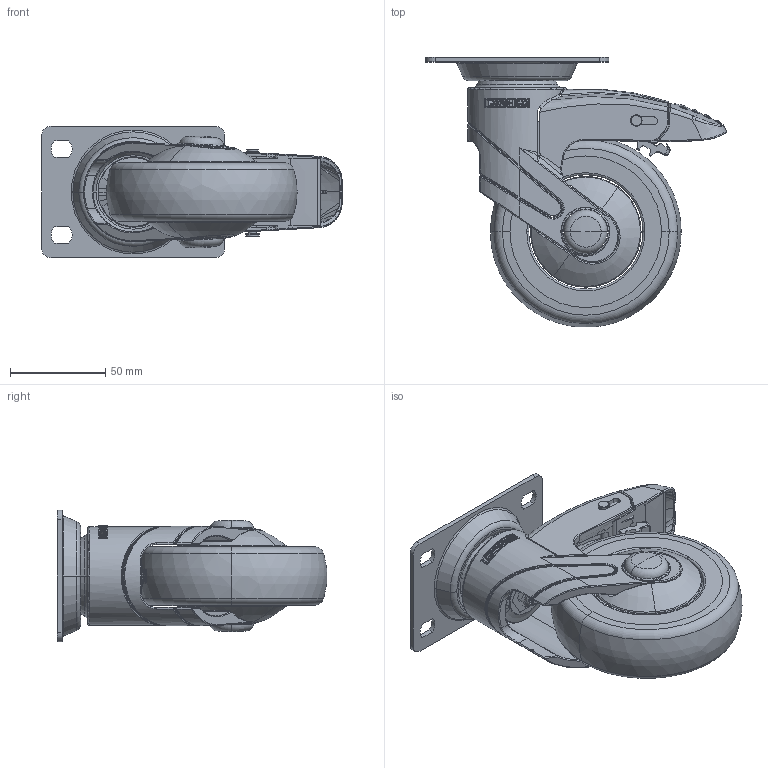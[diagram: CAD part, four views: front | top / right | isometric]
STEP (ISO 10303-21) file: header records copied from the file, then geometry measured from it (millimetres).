
FILE_DESCRIPTION((''),'2;1');
FILE_NAME('PRT0018','2025-08-18T11:35:11',('Administrator'),(''),'CREO PARAMETRIC BY PTC INC, 2022124','CREO PARAMETRIC BY PTC INC, 2022124','');
FILE_SCHEMA(('AUTOMOTIVE_DESIGN { 1 0 10303 214 1 1 1 1 }'));
Products named in the file (1): PRT0018
Bounding box: 157.72 x 141.29 x 69 mm (x, y, z)
Surface area: 66868 mm2 (no closed solid volume)
Topology: 0 solids, 39 shells, 508 faces, 1921 edges, 1394 vertices
Faces by surface type: bspline 211, cylinder 122, plane 81, torus 59, cone 25, sphere 8, extrusion 2
Entity records: 39747 total; most frequent: CARTESIAN_POINT 22151, ORIENTED_EDGE 2833, DIRECTION 2408, EDGE_CURVE 1909, VERTEX_POINT 1394, AXIS2_PLACEMENT_3D 982, B_SPLINE_CURVE_WITH_KNOTS 795, CIRCLE 677
